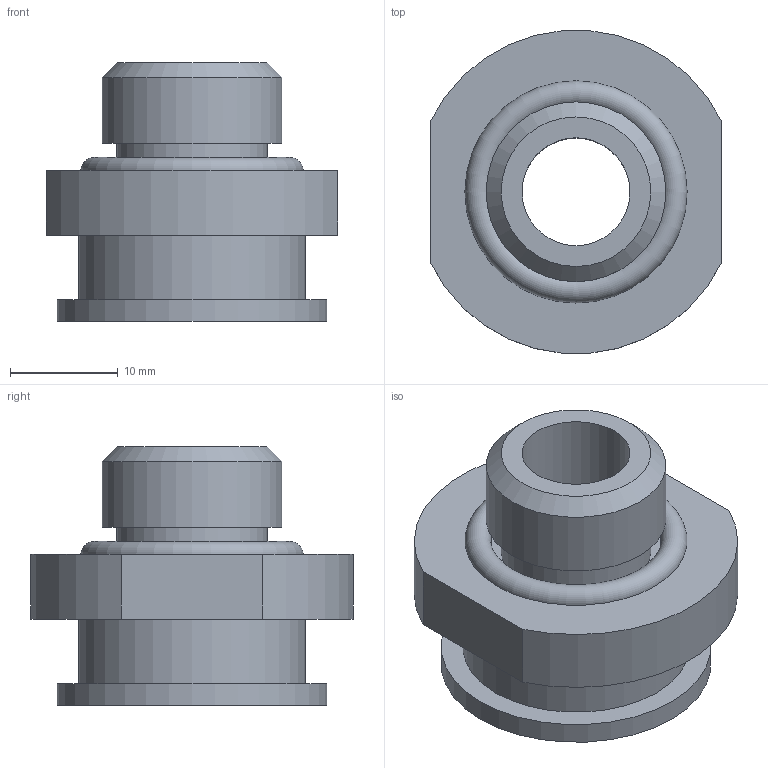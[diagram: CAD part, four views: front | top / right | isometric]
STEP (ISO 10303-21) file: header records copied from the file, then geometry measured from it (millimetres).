
FILE_DESCRIPTION(('STEP AP214'),'1');
FILE_NAME('.stp','2024-08-29T05:33:56',(' '),(' '),'Spatial InterOp 3D',' ',' ');
FILE_SCHEMA(('AUTOMOTIVE_DESIGN { 1 0 10303 214 1 1 1 1 }'));
Length unit declared in the file: millimetre
Products named in the file (2): HGL-40-G3-K; パーツ6
Assembly tree (1 placements, depth 2):
  HGL-40-G3-K
    パーツ6
Bounding box: 27 x 29.89 x 24 mm (x, y, z)
Volume: 7304.6 mm3; surface area: 4156.6 mm2
Topology: 1 solids, 1 shells, 18 faces, 33 edges, 22 vertices
Faces by surface type: plane 9, cylinder 7, torus 1, cone 1
Full cylindrical faces by diameter (mm): 10 x1, 13.95 x1, 16.662 x1, 21 x1, 25 x1
Entity records: 601 total; most frequent: DIRECTION 82, CARTESIAN_POINT 66, ORIENTED_EDGE 50, AXIS2_PLACEMENT_3D 37, EDGE_LOOP 32, EDGE_CURVE 25, FACE_OUTER_BOUND 24, VERTEX_POINT 21
